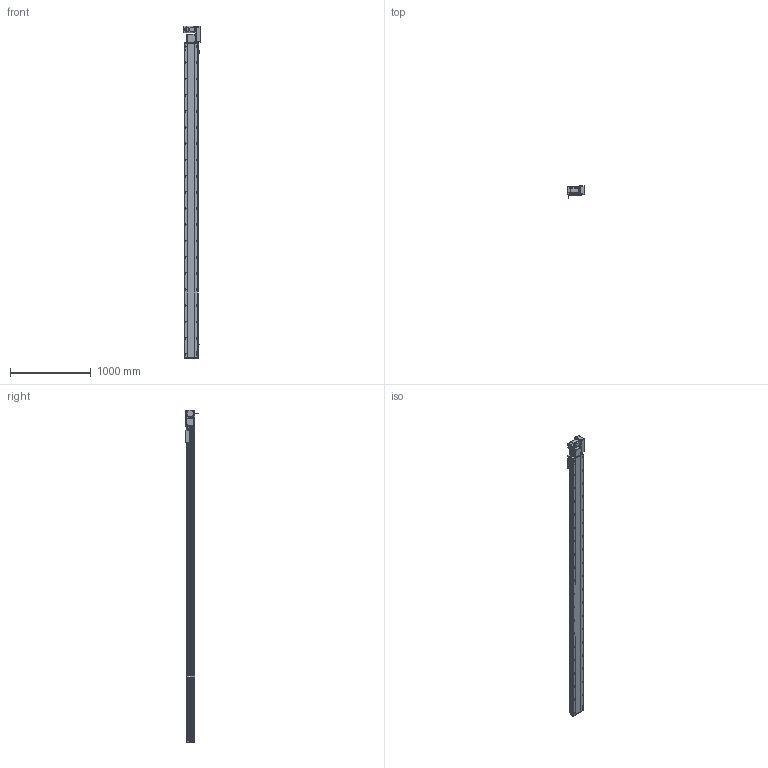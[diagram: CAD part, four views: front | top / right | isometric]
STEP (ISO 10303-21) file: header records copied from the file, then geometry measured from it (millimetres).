
FILE_DESCRIPTION (( 'STEP AP214' ), '1' );
FILE_NAME ('RTB17S-XX-3600-R-M75-C4.STEP', '2025-12-12T01:54:17', ( '' ), ( '' ), 'SwSTEP 2.0', 'SolidWorks 2018', '' );
FILE_SCHEMA (( 'AUTOMOTIVE_DESIGN' ));
Length unit declared in the file: millimetre
Products named in the file (15): RTH13-BL-012覜茼え俋离^RTB17S-賑釱_RTB17S-XX-XX-R-M75-C4; RTB22S-GY-017P^RTB17S-R-々湍釱蚾饜-750W_RTB17S-XX-XX-R-M75-C4; RTB17S-L-014-T20-P75--々湍釱^RTB17S-R-々湍釱蚾饜-750W_RTB17S-XX-XX-R-M75-C4; RTB22S-GY-008-M75--萇儂啣^RTB17S-R-々湍釱蚾饜-750W_RTB17S-XX-XX-R-M75-C4; RTB17S-R-々湍釱蚾饜-750W^RTB17S-XX-XX-R-M75-C4; RTB17-R-011菁釱^RTB17S-XX-XX-R-M75-C4; RTB17S-L-004-賑釱^RTB17S-賑釱_RTB17S-XX-XX-R-M75-C4; RTB17S-XX-3600-R-M75-C4; RTB17S-L-007奻裔^RTB17S-XX-XX-R-M75-C4; RTB17S-賑釱^RTB17S-XX-XX-R-M75-C4; EE672^RTB17S-XX-XX-R-M75-C4; RTB22S-GY-005P^RTB17S-R-々湍釱蚾饜-750W_RTB17S-XX-XX-R-M75-C4; 750W萇儂^RTB17S-XX-XX-R-M75-C4; RTB22S-GY-018P^RTB17S-R-々湍釱蚾饜-750W_RTB17S-XX-XX-R-M75-C4; RTB17S-L-001-耜醱啣^RTB17S-XX-XX-R-M75-C4
Assembly tree (17 placements, depth 3):
  RTB17S-XX-3600-R-M75-C4
    RTB17-R-011菁釱^RTB17S-XX-XX-R-M75-C4
    EE672^RTB17S-XX-XX-R-M75-C4  x3
    RTB17S-L-001-耜醱啣^RTB17S-XX-XX-R-M75-C4
    RTB17S-賑釱^RTB17S-XX-XX-R-M75-C4
      RTB17S-L-004-賑釱^RTB17S-賑釱_RTB17S-XX-XX-R-M75-C4
      RTH13-BL-012覜茼え俋离^RTB17S-賑釱_RTB17S-XX-XX-R-M75-C4
    RTB17S-L-007奻裔^RTB17S-XX-XX-R-M75-C4
    750W萇儂^RTB17S-XX-XX-R-M75-C4
    RTB17S-R-々湍釱蚾饜-750W^RTB17S-XX-XX-R-M75-C4
      RTB17S-L-014-T20-P75--々湍釱^RTB17S-R-々湍釱蚾饜-750W_RTB17S-XX-XX-R-M75-C4
      RTB22S-GY-005P^RTB17S-R-々湍釱蚾饜-750W_RTB17S-XX-XX-R-M75-C4
      RTB22S-GY-017P^RTB17S-R-々湍釱蚾饜-750W_RTB17S-XX-XX-R-M75-C4  x2
      RTB22S-GY-008-M75--萇儂啣^RTB17S-R-々湍釱蚾饜-750W_RTB17S-XX-XX-R-M75-C4
      RTB22S-GY-018P^RTB17S-R-々湍釱蚾饜-750W_RTB17S-XX-XX-R-M75-C4
Bounding box: 207.4 x 152.7 x 4099 mm (x, y, z)
Volume: 28456773.2 mm3; surface area: 5263675.7 mm2
Topology: 17 solids, 17 shells, 2297 faces, 6484 edges, 4202 vertices
Faces by surface type: plane 996, cylinder 885, bspline 294, cone 110, sphere 8, torus 4
Entity records: 68086 total; most frequent: CARTESIAN_POINT 20348, ORIENTED_EDGE 9812, DIRECTION 9032, EDGE_CURVE 4906, AXIS2_PLACEMENT_3D 3222, VERTEX_POINT 3206, LINE 2588, VECTOR 2588
